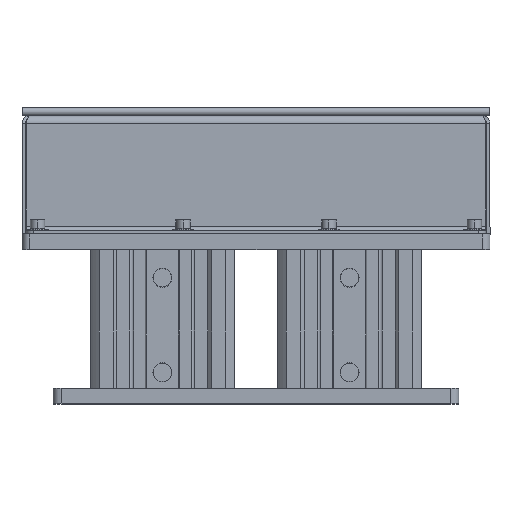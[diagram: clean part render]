
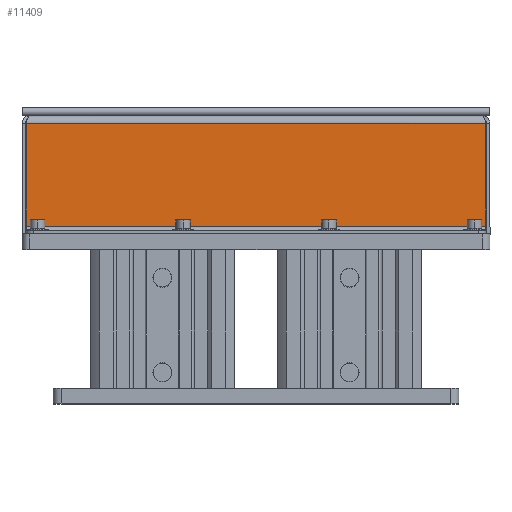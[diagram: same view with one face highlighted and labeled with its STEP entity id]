
A CAD part, top view. The second image highlights one B-rep face of the part: STEP entity #11409.
In plain terms, the highlighted planar face has unit normal (0, 0, 1).
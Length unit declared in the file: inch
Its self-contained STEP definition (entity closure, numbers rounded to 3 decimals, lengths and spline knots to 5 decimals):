
#1536 = CARTESIAN_POINT ( 'NONE',  ( -7.37, 3.54344, 2.375 ) ) ;
#1597 = VECTOR ( 'NONE', #7254, 39.37008 ) ;
#2301 = PLANE ( 'NONE',  #17101 ) ;
#2451 = VERTEX_POINT ( 'NONE', #31623 ) ;
#2504 = EDGE_CURVE ( 'NONE', #28660, #52489, #24321, .T. ) ;
#3053 = EDGE_LOOP ( 'NONE', ( #37258, #9496, #44065, #20115 ) ) ;
#4532 = VECTOR ( 'NONE', #49708, 39.37008 ) ;
#6838 = VECTOR ( 'NONE', #48751, 39.37008 ) ;
#7254 = DIRECTION ( 'NONE',  ( 0., 1., 0. ) ) ;
#8823 = EDGE_CURVE ( 'NONE', #40928, #2451, #46593, .T. ) ;
#9496 = ORIENTED_EDGE ( 'NONE', *, *, #15953, .T. ) ;
#10838 = FACE_OUTER_BOUND ( 'NONE', #3053, .T. ) ;
#11304 = LINE ( 'NONE', #23531, #1597 ) ;
#11409 = ADVANCED_FACE ( 'NONE', ( #10838 ), #2301, .F. ) ;
#14236 = CARTESIAN_POINT ( 'NONE',  ( 7.37, 0.25, 2.375 ) ) ;
#15953 = EDGE_CURVE ( 'NONE', #28660, #2451, #24484, .T. ) ;
#17101 = AXIS2_PLACEMENT_3D ( 'NONE', #19453, #48359, #27773 ) ;
#19453 = CARTESIAN_POINT ( 'NONE',  ( 0., 3.69344, 2.375 ) ) ;
#20115 = ORIENTED_EDGE ( 'NONE', *, *, #22066, .F. ) ;
#22066 = EDGE_CURVE ( 'NONE', #52489, #40928, #11304, .T. ) ;
#23531 = CARTESIAN_POINT ( 'NONE',  ( -7.37, 3.69344, 2.375 ) ) ;
#24321 = LINE ( 'NONE', #52893, #6838 ) ;
#24385 = CARTESIAN_POINT ( 'NONE',  ( 7.37, 3.69344, 2.375 ) ) ;
#24484 = LINE ( 'NONE', #24385, #50343 ) ;
#27773 = DIRECTION ( 'NONE',  ( 0., -1., 0. ) ) ;
#28660 = VERTEX_POINT ( 'NONE', #14236 ) ;
#28920 = CARTESIAN_POINT ( 'NONE',  ( 7.5, 3.54344, 2.375 ) ) ;
#31406 = CARTESIAN_POINT ( 'NONE',  ( -7.37, 0.25, 2.375 ) ) ;
#31623 = CARTESIAN_POINT ( 'NONE',  ( 7.37, 3.54344, 2.375 ) ) ;
#37258 = ORIENTED_EDGE ( 'NONE', *, *, #2504, .F. ) ;
#40928 = VERTEX_POINT ( 'NONE', #1536 ) ;
#44065 = ORIENTED_EDGE ( 'NONE', *, *, #8823, .F. ) ;
#44782 = DIRECTION ( 'NONE',  ( 0., 1., 0. ) ) ;
#46593 = LINE ( 'NONE', #28920, #4532 ) ;
#48359 = DIRECTION ( 'NONE',  ( 0., 0., -1. ) ) ;
#48751 = DIRECTION ( 'NONE',  ( -1., 0., 0. ) ) ;
#49708 = DIRECTION ( 'NONE',  ( 1., 0., 0. ) ) ;
#50343 = VECTOR ( 'NONE', #44782, 39.37008 ) ;
#52489 = VERTEX_POINT ( 'NONE', #31406 ) ;
#52893 = CARTESIAN_POINT ( 'NONE',  ( 7.37, 0.25, 2.375 ) ) ;
